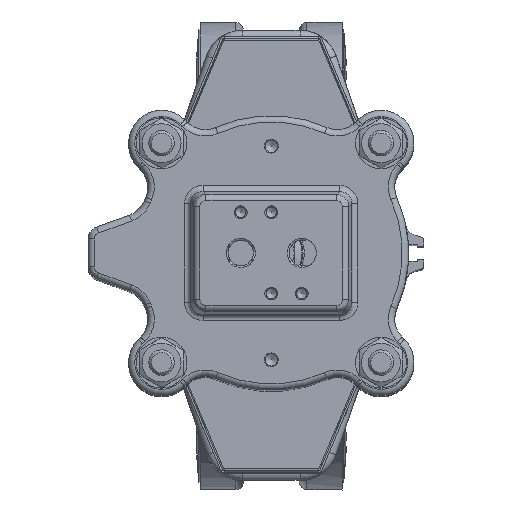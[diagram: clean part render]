
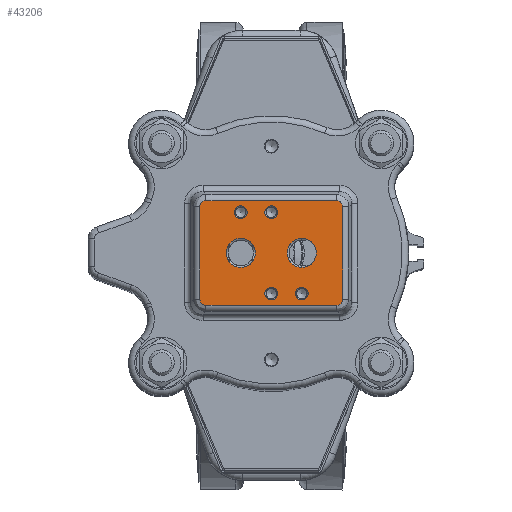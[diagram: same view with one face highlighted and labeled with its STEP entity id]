
A CAD part, top view. The second image highlights one B-rep face of the part: STEP entity #43206.
In plain terms, the highlighted planar face has unit normal (0, 0, 1).
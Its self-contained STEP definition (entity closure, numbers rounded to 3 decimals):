
#1273=ELLIPSE('',#48294,2.673,2.5);
#1274=ELLIPSE('',#48295,2.673,2.5);
#1275=ELLIPSE('',#48296,2.673,2.5);
#1276=ELLIPSE('',#48297,2.673,2.5);
#2439=PLANE('',#48293);
#3004=FACE_BOUND('',#8735,.T.);
#3005=FACE_BOUND('',#8736,.T.);
#3006=FACE_BOUND('',#8737,.T.);
#3007=FACE_BOUND('',#8738,.T.);
#3008=FACE_BOUND('',#8739,.T.);
#3009=FACE_BOUND('',#8740,.T.);
#5461=FACE_OUTER_BOUND('',#8734,.T.);
#8734=EDGE_LOOP('',(#38450,#38451,#38452,#38453,#38454,#38455,#38456,#38457));
#8735=EDGE_LOOP('',(#38458));
#8736=EDGE_LOOP('',(#38459));
#8737=EDGE_LOOP('',(#38460));
#8738=EDGE_LOOP('',(#38461));
#8739=EDGE_LOOP('',(#38462));
#8740=EDGE_LOOP('',(#38463));
#11520=CIRCLE('',#48167,5.723);
#11522=CIRCLE('',#48170,5.723);
#11611=CIRCLE('',#48292,2.5);
#11612=CIRCLE('',#48298,2.5);
#11613=CIRCLE('',#48299,2.5);
#11614=CIRCLE('',#48300,2.5);
#14899=LINE('',#104824,#17023);
#14900=LINE('',#104828,#17024);
#14901=LINE('',#104832,#17025);
#14902=LINE('',#104835,#17026);
#17023=VECTOR('',#60385,10.);
#17024=VECTOR('',#60388,10.);
#17025=VECTOR('',#60391,10.);
#17026=VECTOR('',#60394,10.);
#20608=VERTEX_POINT('',#104270);
#20609=VERTEX_POINT('',#104274);
#20708=VERTEX_POINT('',#104817);
#20709=VERTEX_POINT('',#104820);
#20710=VERTEX_POINT('',#104821);
#20711=VERTEX_POINT('',#104823);
#20712=VERTEX_POINT('',#104825);
#20713=VERTEX_POINT('',#104827);
#20714=VERTEX_POINT('',#104829);
#20715=VERTEX_POINT('',#104831);
#20716=VERTEX_POINT('',#104833);
#20717=VERTEX_POINT('',#104836);
#20718=VERTEX_POINT('',#104838);
#20719=VERTEX_POINT('',#104840);
#26558=EDGE_CURVE('',#20608,#20608,#11520,.T.);
#26560=EDGE_CURVE('',#20609,#20609,#11522,.T.);
#26689=EDGE_CURVE('',#20708,#20708,#11611,.T.);
#26690=EDGE_CURVE('',#20709,#20710,#1273,.T.);
#26691=EDGE_CURVE('',#20711,#20709,#14899,.T.);
#26692=EDGE_CURVE('',#20712,#20711,#1274,.T.);
#26693=EDGE_CURVE('',#20713,#20712,#14900,.T.);
#26694=EDGE_CURVE('',#20714,#20713,#1275,.T.);
#26695=EDGE_CURVE('',#20715,#20714,#14901,.T.);
#26696=EDGE_CURVE('',#20716,#20715,#1276,.T.);
#26697=EDGE_CURVE('',#20710,#20716,#14902,.T.);
#26698=EDGE_CURVE('',#20717,#20717,#11612,.T.);
#26699=EDGE_CURVE('',#20718,#20718,#11613,.T.);
#26700=EDGE_CURVE('',#20719,#20719,#11614,.T.);
#38450=ORIENTED_EDGE('',*,*,#26690,.F.);
#38451=ORIENTED_EDGE('',*,*,#26691,.F.);
#38452=ORIENTED_EDGE('',*,*,#26692,.F.);
#38453=ORIENTED_EDGE('',*,*,#26693,.F.);
#38454=ORIENTED_EDGE('',*,*,#26694,.F.);
#38455=ORIENTED_EDGE('',*,*,#26695,.F.);
#38456=ORIENTED_EDGE('',*,*,#26696,.F.);
#38457=ORIENTED_EDGE('',*,*,#26697,.F.);
#38458=ORIENTED_EDGE('',*,*,#26558,.T.);
#38459=ORIENTED_EDGE('',*,*,#26560,.T.);
#38460=ORIENTED_EDGE('',*,*,#26698,.F.);
#38461=ORIENTED_EDGE('',*,*,#26699,.F.);
#38462=ORIENTED_EDGE('',*,*,#26700,.F.);
#38463=ORIENTED_EDGE('',*,*,#26689,.F.);
#43206=ADVANCED_FACE('',(#5461,#3004,#3005,#3006,#3007,#3008,#3009),#2439,
 .F.);
#48167=AXIS2_PLACEMENT_3D('',#104271,#60107,#60108);
#48170=AXIS2_PLACEMENT_3D('',#104275,#60113,#60114);
#48292=AXIS2_PLACEMENT_3D('',#104818,#60379,#60380);
#48293=AXIS2_PLACEMENT_3D('',#104819,#60381,#60382);
#48294=AXIS2_PLACEMENT_3D('',#104822,#60383,#60384);
#48295=AXIS2_PLACEMENT_3D('',#104826,#60386,#60387);
#48296=AXIS2_PLACEMENT_3D('',#104830,#60389,#60390);
#48297=AXIS2_PLACEMENT_3D('',#104834,#60392,#60393);
#48298=AXIS2_PLACEMENT_3D('',#104837,#60395,#60396);
#48299=AXIS2_PLACEMENT_3D('',#104839,#60397,#60398);
#48300=AXIS2_PLACEMENT_3D('',#104841,#60399,#60400);
#60107=DIRECTION('center_axis',(0.,0.,
-1.));
#60108=DIRECTION('ref_axis',(-1.,0.,0.));
#60113=DIRECTION('center_axis',(0.,0.,
-1.));
#60114=DIRECTION('ref_axis',(-1.,0.,0.));
#60379=DIRECTION('center_axis',(0.,0.,
1.));
#60380=DIRECTION('ref_axis',(1.,0.,0.));
#60381=DIRECTION('center_axis',(0.,0.,
-1.));
#60382=DIRECTION('ref_axis',(1.,0.,0.));
#60383=DIRECTION('center_axis',(0.,0.,
-1.));
#60384=DIRECTION('ref_axis',(0.707,0.707,0.));
#60385=DIRECTION('',(1.,0.,0.));
#60386=DIRECTION('center_axis',(0.,0.,
-1.));
#60387=DIRECTION('ref_axis',(-0.707,0.707,0.));
#60388=DIRECTION('',(0.,1.,0.));
#60389=DIRECTION('center_axis',(0.,0.,
-1.));
#60390=DIRECTION('ref_axis',(-0.707,-0.707,0.));
#60391=DIRECTION('',(-1.,0.,0.));
#60392=DIRECTION('center_axis',(0.,0.,
-1.));
#60393=DIRECTION('ref_axis',(0.707,-0.707,0.));
#60394=DIRECTION('',(0.,-1.,0.));
#60395=DIRECTION('center_axis',(0.,0.,
1.));
#60396=DIRECTION('ref_axis',(1.,0.,0.));
#60397=DIRECTION('center_axis',(0.,0.,
1.));
#60398=DIRECTION('ref_axis',(1.,0.,0.));
#60399=DIRECTION('center_axis',(0.,0.,
1.));
#60400=DIRECTION('ref_axis',(1.,0.,0.));
#104270=CARTESIAN_POINT('',(6.277,60.844,568.));
#104271=CARTESIAN_POINT('Origin',(12.,60.844,568.));
#104274=CARTESIAN_POINT('',(-17.723,60.844,568.));
#104275=CARTESIAN_POINT('Origin',(-12.,60.844,568.));
#104817=CARTESIAN_POINT('',(9.5,44.844,568.));
#104818=CARTESIAN_POINT('Origin',(12.,44.844,568.));
#104819=CARTESIAN_POINT('Origin',(0.,60.844,
568.));
#104820=CARTESIAN_POINT('',(25.667,81.426,568.));
#104821=CARTESIAN_POINT('',(28.082,79.011,568.));
#104822=CARTESIAN_POINT('Origin',(25.493,78.837,568.));
#104823=CARTESIAN_POINT('',(-25.667,81.426,568.));
#104824=CARTESIAN_POINT('',(15.,81.426,568.));
#104825=CARTESIAN_POINT('',(-28.082,79.011,568.));
#104826=CARTESIAN_POINT('Origin',(-25.493,78.837,568.));
#104827=CARTESIAN_POINT('',(-28.082,42.677,568.));
#104828=CARTESIAN_POINT('',(-28.082,72.094,568.));
#104829=CARTESIAN_POINT('',(-25.667,40.262,568.));
#104830=CARTESIAN_POINT('Origin',(-25.493,42.85,568.));
#104831=CARTESIAN_POINT('',(25.667,40.262,568.));
#104832=CARTESIAN_POINT('',(-15.,40.262,568.));
#104833=CARTESIAN_POINT('',(28.082,42.677,568.));
#104834=CARTESIAN_POINT('Origin',(25.493,42.85,568.));
#104835=CARTESIAN_POINT('',(28.082,49.594,568.));
#104836=CARTESIAN_POINT('',(-2.5,44.844,568.));
#104837=CARTESIAN_POINT('Origin',(0.,44.844,
568.));
#104838=CARTESIAN_POINT('',(-14.5,76.844,568.));
#104839=CARTESIAN_POINT('Origin',(-12.,76.844,568.));
#104840=CARTESIAN_POINT('',(-2.5,76.844,568.));
#104841=CARTESIAN_POINT('Origin',(0.,76.844,
568.));
